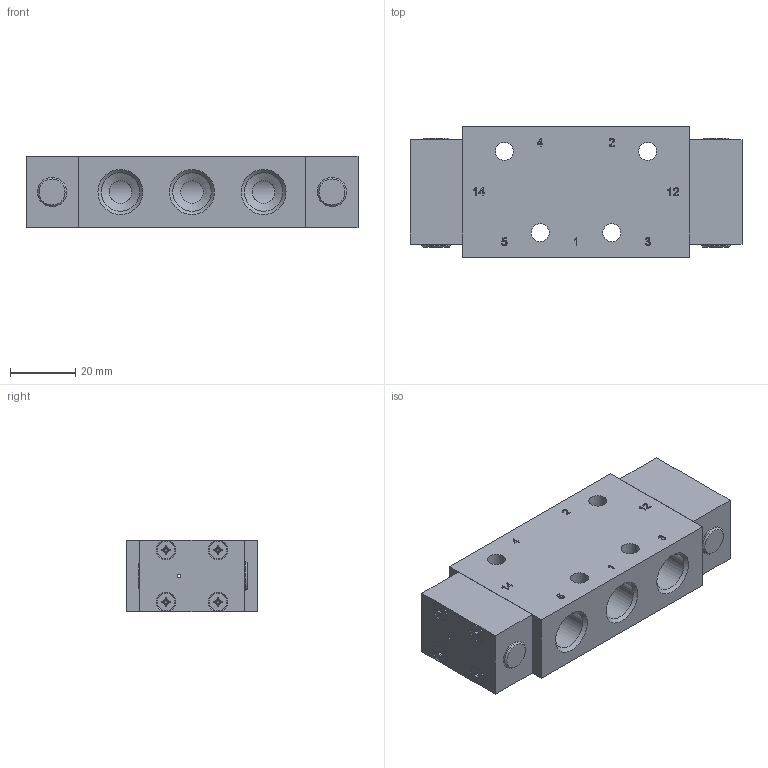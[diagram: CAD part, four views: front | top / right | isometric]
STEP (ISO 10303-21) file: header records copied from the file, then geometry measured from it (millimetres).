
FILE_DESCRIPTION(/* description */ ('Unknown'),/* implementation_level */ '2;1');
FILE_NAME(/* name */ 'PFF 520 701',/* time_stamp */ '2024-03-27T10:07:13+01:00',/* author */ ('Unknown'),/* organization */ ('HAFNER Pneumatika Kft.'),/* preprocessor_version */ 'ST-DEVELOPER v18.102',/* originating_system */ 'Solid Edge',/* authorisation */ 'Unknown');
FILE_SCHEMA (('AUTOMOTIVE_DESIGN {1 0 10303 214 3 1 1}'));
Length unit declared in the file: millimetre
Products named in the file (2): PFF 520 701
Assembly tree (1 placements, depth 2):
  PFF 520 701
    PFF 520 701
Bounding box: 102 x 40 x 22 mm (x, y, z)
Surface area: 21706 mm2
Topology: 3 solids, 18 shells, 449 faces, 1232 edges, 782 vertices
Faces by surface type: plane 300, bspline 72, cylinder 46, cone 28, sphere 3
Full cylindrical faces by diameter (mm): 1.2 x2, 1.6 x2, 1.85 x3, 5 x2, 5.5 x12, 8.06 x2, 9 x2, 11.8 x10, 12 x1
Entity records: 16163 total; most frequent: CARTESIAN_POINT 4062, ORIENTED_EDGE 2030, DIRECTION 1857, EDGE_CURVE 1126, LINE 807, VECTOR 807, VERTEX_POINT 749, FACE_BOUND 595
